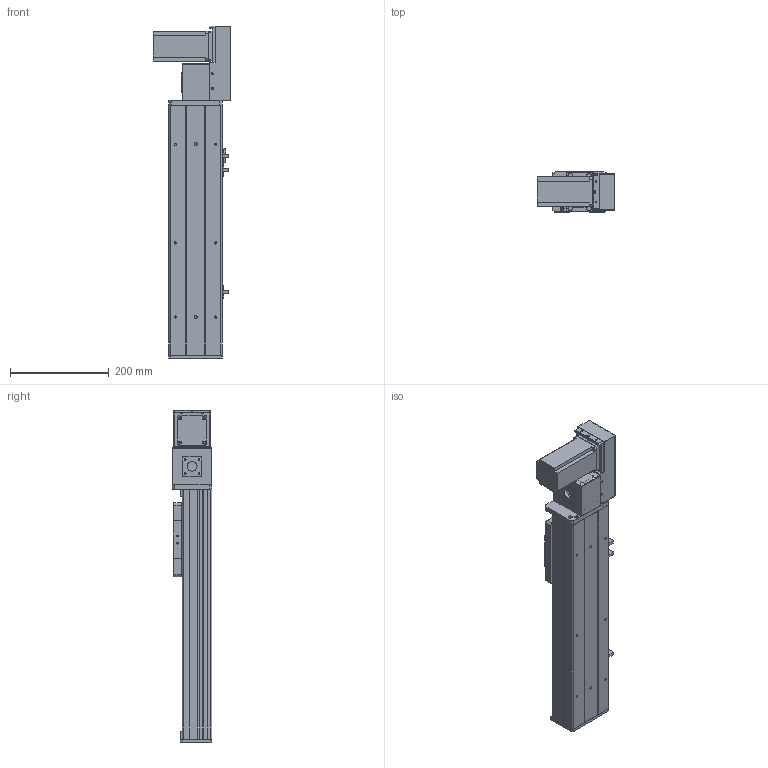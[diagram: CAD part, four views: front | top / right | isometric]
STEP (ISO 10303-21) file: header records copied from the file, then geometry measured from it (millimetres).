
FILE_DESCRIPTION (( 'STEP AP203' ), '1' );
FILE_NAME ('Y10CB-D90-S250-BR-P400W.STEP', '2020-02-16T01:32:23', ( '微软用户' ), ( '微软中国' ), 'SwSTEP 2.0', 'SolidWorks 2017', '' );
FILE_SCHEMA (( 'CONFIG_CONTROL_DESIGN' ));
Length unit declared in the file: millimetre
Products named in the file (18): Y10CB- 掛极耜裔啣-毀---; Y10B-々湍喘謫眊楊擘啣--; Y10C---詩湍揤啣; Y10B-耜蚾蟀諉啣----; 10CB9-掛极; 0B-萇儂楊擘啣; 10CB-耜裔; san松下电机400不带刹车----; Y135C-陔俋离換覜結え-; 0B-源倛裔啣; Y100-135俋离換覜ん--; 0B-埴倛裔啣; Y10B--々湍喘謫眊--666; Y俋欶BR----; 0CB-雄赽釱---; Y10CB-D90-S250-BR-P400W; 10CB-詩湍-; 0Cb-俋欶---
Assembly tree (21 placements, depth 2):
  Y10CB-D90-S250-BR-P400W
    0CB-雄赽釱---
    0Cb-俋欶---
    Y10B-々湍喘謫眊楊擘啣--
    Y10B-耜蚾蟀諉啣----
    0B-萇儂楊擘啣
    san松下电机400不带刹车----
    0B-源倛裔啣
    0B-埴倛裔啣
    Y俋欶BR----
    10CB-詩湍-
    Y10CB- 掛极耜裔啣-毀---  x2
    Y10C---詩湍揤啣  x2
    10CB9-掛极
    10CB-耜裔
    Y135C-陔俋离換覜結え-
    Y100-135俋离換覜ん--  x3
    Y10B--々湍喘謫眊--666
Bounding box: 157.5 x 80.5 x 672.5 mm (x, y, z)
Volume: 1828086.6 mm3; surface area: 752329.4 mm2
Topology: 21 solids, 21 shells, 942 faces, 2483 edges, 1634 vertices
Faces by surface type: plane 471, cylinder 447, cone 24
Entity records: 28904 total; most frequent: CARTESIAN_POINT 4877, DIRECTION 4722, ORIENTED_EDGE 4436, EDGE_CURVE 2218, AXIS2_PLACEMENT_3D 1689, VERTEX_POINT 1460, VECTOR 1344, LINE 1344
